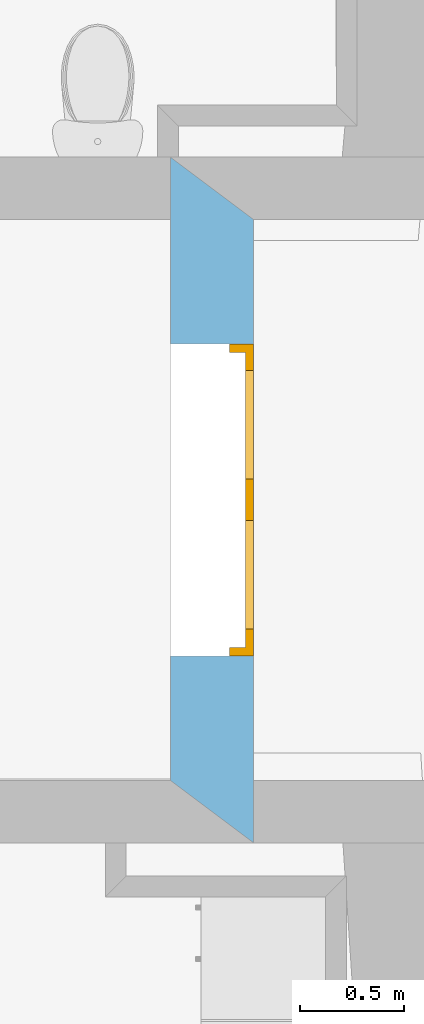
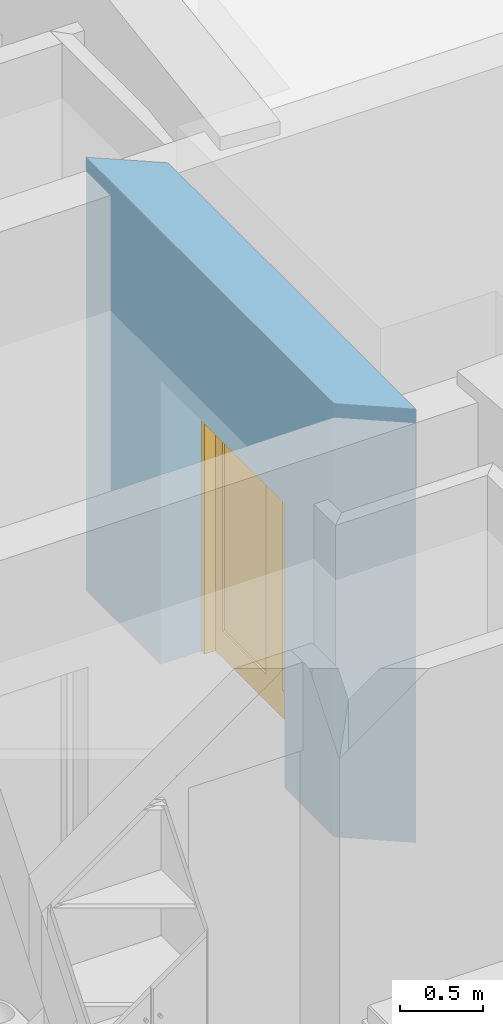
# One storey, part 39 of 172: 1 door, 1 opening, plus 1 element that does not belong to this part.
"""IFC2X3 building model written with IfcOpenShell, lengths in millimetres."""

from ifc_helpers import new_model, entity, si_unit, converted_unit, money_unit, direction, frame, origin_with_axes, place, context, subcontext, project, spatial, polyline, outline, extrude, open_shell, faceted_brep, surface_model, material, material_list, layer, layer_set, layer_usage, type_object, element, fill, save


model = new_model("IFC2X3")

# Units and contexts
model_context = context("Model", 3, precision=1e-05, world=origin_with_axes(), true_north=direction((0.0, 1.0)))
body_context = subcontext(model_context, "Body", "Model", "MODEL_VIEW")
ifc_project = project(units=[si_unit("LENGTHUNIT", "METRE", prefix="MILLI"), si_unit("AREAUNIT", "SQUARE_METRE"), si_unit("VOLUMEUNIT", "CUBIC_METRE"), converted_unit("PLANEANGLEUNIT", "DEGREE", entity("IfcPlaneAngleMeasure", 0.0174532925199), si_unit("PLANEANGLEUNIT", "RADIAN"), dimensions=[0, 0, 0, 0, 0, 0, 0]), si_unit("SOLIDANGLEUNIT", "STERADIAN"), money_unit("USD"), converted_unit("TIMEUNIT", "Year", entity("IfcTimeMeasure", 31556926.0), si_unit("TIMEUNIT", "SECOND"), dimensions=[0, 0, 0, 0, 0, 0, 0]), si_unit("MASSUNIT", "GRAM"), si_unit("THERMODYNAMICTEMPERATUREUNIT", "DEGREE_CELSIUS"), si_unit("LUMINOUSINTENSITYUNIT", "LUMEN")], contexts=[model_context])

# Site, building, storey
site_placement = place(None, origin_with_axes())
site = spatial("IfcSite", under=ifc_project, at=site_placement, Name="Site", CompositionType="ELEMENT")
building_placement = place(site_placement, origin_with_axes())
building = spatial("IfcBuilding", under=site, at=building_placement, Name="Building", CompositionType="ELEMENT")
storey_placement = place(building_placement, frame((0.0, 0.0, 3200.0), z_axis=(0.0, 0.0, 1.0), x_axis=(1.0, 0.0, 0.0)))
storey = spatial("IfcBuildingStorey", under=building, at=storey_placement, Name="3KORRUS", CompositionType="ELEMENT", Elevation=3200.0)

# Wall, opening, door
ifc_material_1 = material(Name="Olemasolevad seinad tellis, uus viimistlus")
ifc_layer = layer(ifc_material_1, 400.0, ventilated="UNKNOWN")
ifc_layer_set = layer_set([ifc_layer], Name="Olemasolevad seinad tellis, uus viimistlus  400")
ifc_layer_usage = layer_usage(ifc_layer_set, "AXIS2", "POSITIVE", 0.0)
wall_type = type_object("IfcWallType", Name="Olemasolevad seinad tellis, uus viimistlus  400", PredefinedType="NOTDEFINED")
wall_placement = place(storey_placement, frame((17015.1799697, -11039.6041088, 0.0), z_axis=(0.0, 0.0, 1.0), x_axis=(0.0, -1.0, 0.0)))
wall = element("IfcWallStandardCase", 1, at=wall_placement, inside=storey, type_object=wall_type, material=ifc_layer_usage, Name="VS1", ObjectType="OLEMASOLEVVÄLISSEIN LISASOOJUSTUSEGA", context=body_context, shape_type="SweptSolid", body=[
    extrude(outline(polyline([(-300.0, 0.0), (2699.6357906, 0.0), (2999.6357906, 400.0), (0.0, 400.0), (-300.0, 0.0)])), origin_with_axes(), (0.0, 0.0, 1.0), 3200.0),
])
opening_placement = place(wall_placement, frame((1349.63579061, 0.0, 0.0), z_axis=(0.0, 0.0, 1.0), x_axis=(1.0, 0.0, 0.0)))
opening = element("IfcOpeningElement", 2, at=opening_placement, cuts=wall, Name="ava", context=body_context, shape_type="SweptSolid", body=[
    extrude(outline(polyline([(750.0, -2100.0), (750.0, 0.0), (-750.0, 0.0), (-750.0, -2100.0), (750.0, -2100.0)])), frame((0.0, -400.0, 0.0), z_axis=(0.0, 1.0, 0.0), x_axis=(1.0, 0.0, 0.0)), (0.0, 0.0, 1.0), 1200.0),
])
ifc_material_2 = material(Name="Background")
ifc_material_list = material_list([ifc_material_2])
door_style = type_object("IfcDoorStyle", Name="Double Door 19", ConstructionType="NOTDEFINED", OperationType="DOUBLE_DOOR_SINGLE_SWING", ParameterTakesPrecedence=False, Sizeable=False)
door_placement = place(opening_placement, frame((-750.0, 0.0, 0.0), z_axis=(0.0, 0.0, 1.0), x_axis=(1.0, 0.0, 0.0)))
door = element("IfcDoor", 3, at=door_placement, inside=storey, type_object=door_style, material=ifc_material_list, Name="ava", ObjectType="DOOR", OverallHeight=2100.0, OverallWidth=1500.0, context=body_context, shape_type="SurfaceModel", body=[
    faceted_brep([(1460.0, 360.0, 0.0), (1460.0, 285.0, 0.0), (1460.0, 285.0, 2060.0), (1460.0, 360.0, 2060.0), (1472.0, 360.0, 0.0), (1472.0, 400.0, 0.0), (1500.0, 400.0, 0.0), (1500.0, 285.0, 0.0), (1500.0, 285.0, 2060.0), (1472.0, 360.0, 2060.0), (1500.0, 400.0, 2060.0), (1472.0, 400.0, 2060.0)], [[[0, 1, 2, 3]], [[4, 5, 6, 7, 1, 0]], [[2, 1, 7, 8]], [[9, 3, 2, 8, 10, 11]], [[9, 4, 0, 3]], [[11, 5, 4, 9]], [[11, 10, 6, 5]], [[7, 6, 10, 8]]]),
    faceted_brep([(28.0, 360.0, 2060.0), (28.0, 400.0, 2060.0), (0.0, 400.0, 2060.0), (0.0, 285.0, 2060.0), (40.0, 285.0, 2060.0), (40.0, 360.0, 2060.0), (28.0, 360.0, 0.0), (28.0, 400.0, 0.0), (0.0, 400.0, 0.0), (0.0, 285.0, 0.0), (40.0, 285.0, 0.0), (40.0, 360.0, 0.0)], [[[0, 1, 2, 3, 4, 5]], [[0, 6, 7, 1]], [[7, 8, 2, 1]], [[3, 2, 8, 9]], [[4, 3, 9, 10]], [[5, 4, 10, 11]], [[5, 11, 6, 0]], [[6, 11, 10, 9, 8, 7]]]),
    faceted_brep([(1472.0, 400.0, 2072.0), (28.0, 400.0, 2072.0), (28.0, 400.0, 2060.0), (0.0, 400.0, 2060.0), (0.0, 400.0, 2100.0), (1500.0, 400.0, 2100.0), (1500.0, 400.0, 2060.0), (1472.0, 400.0, 2060.0), (1472.0, 360.0, 2072.0), (28.0, 360.0, 2072.0), (28.0, 360.0, 2060.0), (40.0, 360.0, 2060.0), (40.0, 285.0, 2060.0), (0.0, 285.0, 2060.0), (0.0, 285.0, 2100.0), (1500.0, 285.0, 2100.0), (1500.0, 285.0, 2060.0), (1472.0, 360.0, 2060.0), (1460.0, 285.0, 2060.0), (1460.0, 360.0, 2060.0)], [[[0, 1, 2, 3, 4, 5, 6, 7]], [[0, 8, 9, 1]], [[1, 9, 10, 2]], [[10, 11, 12, 13, 3, 2]], [[14, 4, 3, 13]], [[15, 5, 4, 14]], [[16, 6, 5, 15]], [[17, 7, 6, 16, 18, 19]], [[7, 17, 8, 0]], [[10, 9, 8, 17, 19, 11]], [[19, 18, 12, 11]], [[13, 12, 18, 16, 15, 14]]]),
    faceted_brep([(28.0, 400.0, 200.0), (128.0, 400.0, 200.0), (128.0, 360.0, 200.0), (28.0, 360.0, 200.0), (28.0, 400.0, 1972.0), (128.0, 400.0, 1972.0), (128.0, 360.0, 1972.0), (28.0, 360.0, 1972.0)], [[[0, 1, 2, 3]], [[0, 4, 5, 1]], [[1, 5, 6, 2]], [[3, 2, 6, 7]], [[4, 0, 3, 7]], [[5, 4, 7, 6]]]),
    faceted_brep([(750.0, 400.0, 200.0), (750.0, 400.0, 1972.0), (750.0, 360.0, 1972.0), (750.0, 360.0, 200.0), (650.0, 400.0, 200.0), (650.0, 400.0, 1972.0), (650.0, 360.0, 1972.0), (650.0, 360.0, 200.0)], [[[0, 1, 2, 3]], [[0, 4, 5, 1]], [[1, 5, 6, 2]], [[3, 2, 6, 7]], [[4, 0, 3, 7]], [[5, 4, 7, 6]]]),
    faceted_brep([(28.0, 400.0, 0.0), (750.0, 400.0, 0.0), (750.0, 360.0, 0.0), (28.0, 360.0, 0.0), (28.0, 400.0, 200.0), (128.0, 400.0, 200.0), (650.0, 400.0, 200.0), (750.0, 400.0, 200.0), (750.0, 360.0, 200.0), (650.0, 360.0, 200.0), (128.0, 360.0, 200.0), (28.0, 360.0, 200.0)], [[[0, 1, 2, 3]], [[0, 4, 5, 6, 7, 1]], [[1, 7, 8, 2]], [[3, 2, 8, 9, 10, 11]], [[4, 0, 3, 11]], [[5, 4, 11, 10]], [[6, 5, 10, 9]], [[7, 6, 9, 8]]]),
    faceted_brep([(28.0, 400.0, 2072.0), (28.0, 400.0, 1972.0), (28.0, 360.0, 1972.0), (28.0, 360.0, 2072.0), (750.0, 400.0, 2072.0), (750.0, 400.0, 1972.0), (650.0, 400.0, 1972.0), (128.0, 400.0, 1972.0), (128.0, 360.0, 1972.0), (650.0, 360.0, 1972.0), (750.0, 360.0, 1972.0), (750.0, 360.0, 2072.0)], [[[0, 1, 2, 3]], [[0, 4, 5, 6, 7, 1]], [[1, 7, 8, 2]], [[3, 2, 8, 9, 10, 11]], [[4, 0, 3, 11]], [[5, 4, 11, 10]], [[6, 5, 10, 9]], [[7, 6, 9, 8]]]),
    surface_model("IfcShellBasedSurfaceModel", [(128.0, 386.0, 200.0), (128.0, 386.0, 1972.0), (650.0, 386.0, 1972.0), (650.0, 386.0, 200.0)], [open_shell([[[0, 1, 2, 3]]])]),
    surface_model("IfcShellBasedSurfaceModel", [(128.0, 374.0, 200.0), (650.0, 374.0, 200.0), (650.0, 374.0, 1972.0), (128.0, 374.0, 1972.0)], [open_shell([[[0, 1, 2, 3]]])]),
    faceted_brep([(1472.0, 400.0, 200.0), (1472.0, 360.0, 200.0), (1372.0, 360.0, 200.0), (1372.0, 400.0, 200.0), (1472.0, 400.0, 1972.0), (1472.0, 360.0, 1972.0), (1372.0, 360.0, 1972.0), (1372.0, 400.0, 1972.0)], [[[0, 1, 2, 3]], [[4, 5, 1, 0]], [[1, 5, 6, 2]], [[3, 2, 6, 7]], [[0, 3, 7, 4]], [[7, 6, 5, 4]]]),
    faceted_brep([(750.0, 400.0, 200.0), (750.0, 360.0, 200.0), (750.0, 360.0, 1972.0), (750.0, 400.0, 1972.0), (850.0, 400.0, 200.0), (850.0, 360.0, 200.0), (850.0, 360.0, 1972.0), (850.0, 400.0, 1972.0)], [[[0, 1, 2, 3]], [[4, 5, 1, 0]], [[1, 5, 6, 2]], [[3, 2, 6, 7]], [[0, 3, 7, 4]], [[7, 6, 5, 4]]]),
    faceted_brep([(1472.0, 400.0, 0.0), (1472.0, 360.0, 0.0), (750.0, 360.0, 0.0), (750.0, 400.0, 0.0), (1472.0, 400.0, 200.0), (1472.0, 360.0, 200.0), (1372.0, 360.0, 200.0), (850.0, 360.0, 200.0), (750.0, 360.0, 200.0), (750.0, 400.0, 200.0), (850.0, 400.0, 200.0), (1372.0, 400.0, 200.0)], [[[0, 1, 2, 3]], [[4, 5, 1, 0]], [[1, 5, 6, 7, 8, 2]], [[3, 2, 8, 9]], [[0, 3, 9, 10, 11, 4]], [[11, 6, 5, 4]], [[10, 7, 6, 11]], [[9, 8, 7, 10]]]),
    faceted_brep([(1472.0, 400.0, 2072.0), (1472.0, 360.0, 2072.0), (1472.0, 360.0, 1972.0), (1472.0, 400.0, 1972.0), (750.0, 400.0, 2072.0), (750.0, 360.0, 2072.0), (750.0, 360.0, 1972.0), (850.0, 360.0, 1972.0), (1372.0, 360.0, 1972.0), (1372.0, 400.0, 1972.0), (850.0, 400.0, 1972.0), (750.0, 400.0, 1972.0)], [[[0, 1, 2, 3]], [[4, 5, 1, 0]], [[1, 5, 6, 7, 8, 2]], [[3, 2, 8, 9]], [[0, 3, 9, 10, 11, 4]], [[11, 6, 5, 4]], [[10, 7, 6, 11]], [[9, 8, 7, 10]]]),
    surface_model("IfcShellBasedSurfaceModel", [(1372.0, 386.0, 200.0), (850.0, 386.0, 200.0), (850.0, 386.0, 1972.0), (1372.0, 386.0, 1972.0)], [open_shell([[[0, 1, 2, 3]]])]),
    surface_model("IfcShellBasedSurfaceModel", [(1372.0, 374.0, 200.0), (1372.0, 374.0, 1972.0), (850.0, 374.0, 1972.0), (850.0, 374.0, 200.0)], [open_shell([[[0, 1, 2, 3]]])]),
])
fill(opening, door)

save(model, "model.ifc")
